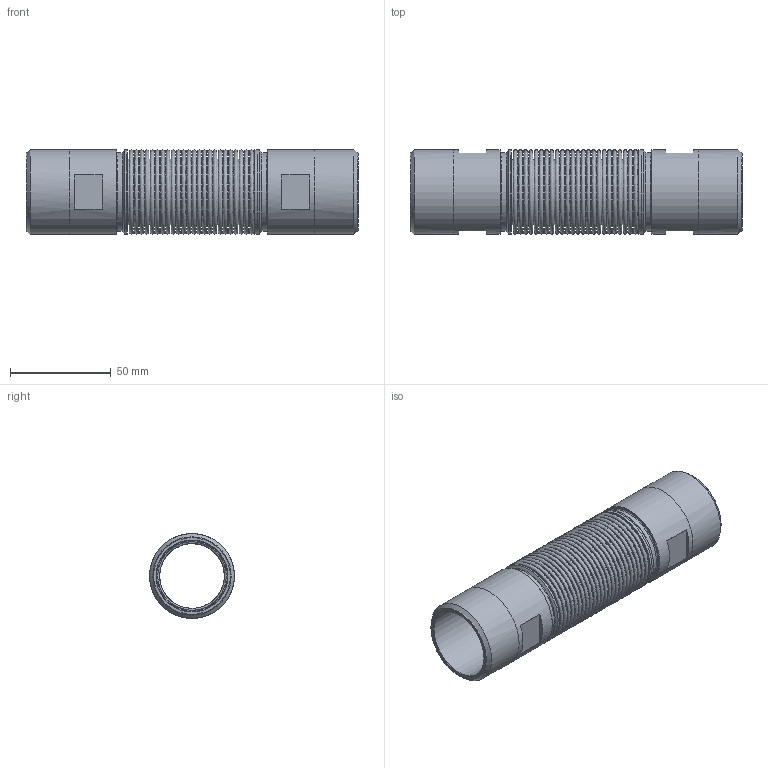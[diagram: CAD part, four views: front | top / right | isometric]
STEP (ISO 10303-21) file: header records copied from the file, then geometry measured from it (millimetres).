
FILE_DESCRIPTION (( 'STEP AP214' ), '1' );
FILE_NAME ('97059999.STEP', '2024-09-06T14:01:05', ( '' ), ( '' ), 'SwSTEP 2.0', 'SolidWorks 2021', '' );
FILE_SCHEMA (( 'AUTOMOTIVE_DESIGN' ));
Length unit declared in the file: millimetre
Products named in the file (1): 97059999
Bounding box: 165 x 42.2 x 42.2 mm (x, y, z)
Surface area: 100206.3 mm2 (no closed solid volume)
Topology: 0 solids, 5 shells, 253 faces, 598 edges, 361 vertices
Faces by surface type: cone 106, bspline 102, plane 32, cylinder 13
Full cylindrical faces by diameter (mm): 35.2 x2, 38.96 x2, 39 x2, 40 x1, 42 x4, 42.2 x2
Entity records: 11517 total; most frequent: CARTESIAN_POINT 4618, DIRECTION 818, ORIENTED_EDGE 572, EDGE_LOOP 490, AXIS2_PLACEMENT_3D 389, FACE_OUTER_BOUND 368, EDGE_CURVE 289, VERTEX_POINT 273
